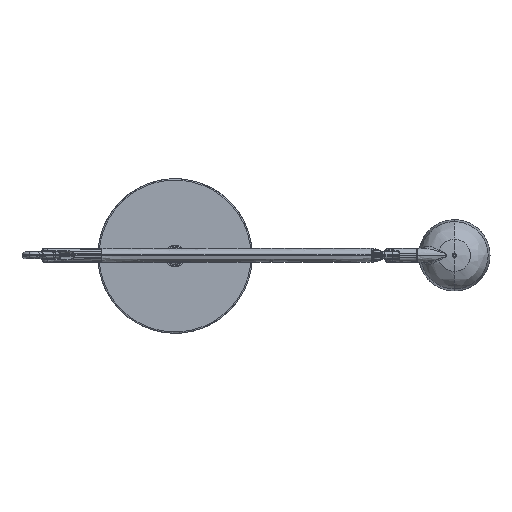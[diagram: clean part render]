
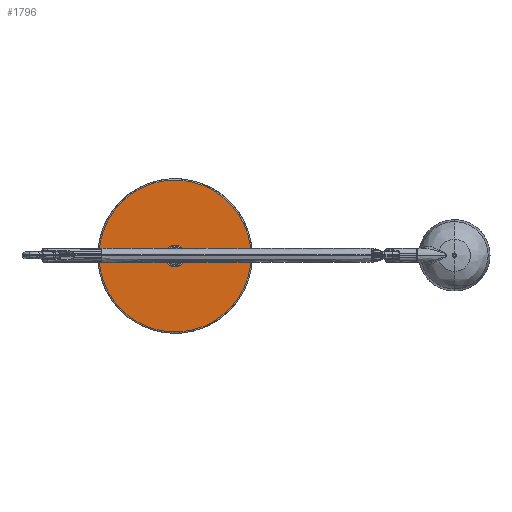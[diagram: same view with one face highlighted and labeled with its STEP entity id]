
A CAD part, top view. The second image highlights one B-rep face of the part: STEP entity #1796.
In plain terms, the highlighted planar face has unit normal (0, 0, 1).
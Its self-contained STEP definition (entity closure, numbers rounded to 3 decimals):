
#373=FACE_BOUND('',#9407,.T.);
#1796=ADVANCED_FACE('',(#5593,#373),#52932,.T.);
#5593=FACE_OUTER_BOUND('',#9406,.T.);
#9406=EDGE_LOOP('',(#16421,#16422));
#9407=EDGE_LOOP('',(#16423,#16424));
#16421=ORIENTED_EDGE('',*,*,#31812,.F.);
#16422=ORIENTED_EDGE('',*,*,#31832,.T.);
#16423=ORIENTED_EDGE('',*,*,#31819,.T.);
#16424=ORIENTED_EDGE('',*,*,#31830,.T.);
#31812=EDGE_CURVE('',#48448,#48449,#39245,.T.);
#31819=EDGE_CURVE('',#48457,#48456,#39249,.T.);
#31830=EDGE_CURVE('',#48456,#48457,#39255,.T.);
#31832=EDGE_CURVE('',#48448,#48449,#39257,.T.);
#39245=(
BOUNDED_CURVE()
B_SPLINE_CURVE(2,(#92901,#92902,#92903,#92904,#92905),.UNSPECIFIED.,.F.,
 .F.)
B_SPLINE_CURVE_WITH_KNOTS((3,2,3),(0.,137.445,274.889),
 .UNSPECIFIED.)
CURVE()
GEOMETRIC_REPRESENTATION_ITEM()
RATIONAL_B_SPLINE_CURVE((1.,0.707,1.,0.707,1.))
REPRESENTATION_ITEM('')
);
#39249=(
BOUNDED_CURVE()
B_SPLINE_CURVE(2,(#92927,#92928,#92929,#92930,#92931),.UNSPECIFIED.,.F.,
 .F.)
B_SPLINE_CURVE_WITH_KNOTS((3,2,3),(-39.27,-19.635,
0.),.UNSPECIFIED.)
CURVE()
GEOMETRIC_REPRESENTATION_ITEM()
RATIONAL_B_SPLINE_CURVE((1.,0.707,1.,0.707,1.))
REPRESENTATION_ITEM('')
);
#39255=(
BOUNDED_CURVE()
B_SPLINE_CURVE(2,(#92967,#92968,#92969,#92970,#92971),.UNSPECIFIED.,.F.,
 .F.)
B_SPLINE_CURVE_WITH_KNOTS((3,2,3),(-39.27,-19.635,
0.),.UNSPECIFIED.)
CURVE()
GEOMETRIC_REPRESENTATION_ITEM()
RATIONAL_B_SPLINE_CURVE((1.,0.707,1.,0.707,1.))
REPRESENTATION_ITEM('')
);
#39257=(
BOUNDED_CURVE()
B_SPLINE_CURVE(2,(#92977,#92978,#92979,#92980,#92981),.UNSPECIFIED.,.F.,
 .F.)
B_SPLINE_CURVE_WITH_KNOTS((3,2,3),(-274.889,-137.445,
0.),.UNSPECIFIED.)
CURVE()
GEOMETRIC_REPRESENTATION_ITEM()
RATIONAL_B_SPLINE_CURVE((1.,0.707,1.,0.707,1.))
REPRESENTATION_ITEM('')
);
#48448=VERTEX_POINT('',#92856);
#48449=VERTEX_POINT('',#92857);
#48456=VERTEX_POINT('',#92864);
#48457=VERTEX_POINT('',#92865);
#52932=PLANE('',#56504);
#56504=AXIS2_PLACEMENT_3D('',#92727,#57356,$);
#57356=DIRECTION('',(0.,0.,1.));
#92727=CARTESIAN_POINT('',(-105.,159.129,-248.63));
#92856=CARTESIAN_POINT('',(-87.5,264.13,-248.63));
#92857=CARTESIAN_POINT('',(87.5,264.13,-248.63));
#92864=CARTESIAN_POINT('',(-12.5,264.13,-248.63));
#92865=CARTESIAN_POINT('',(12.5,264.13,-248.63));
#92901=CARTESIAN_POINT('',(-87.5,264.13,-248.63));
#92902=CARTESIAN_POINT('',(-87.5,351.63,-248.63));
#92903=CARTESIAN_POINT('',(0.,351.63,-248.63));
#92904=CARTESIAN_POINT('',(87.5,351.63,-248.63));
#92905=CARTESIAN_POINT('',(87.5,264.13,-248.63));
#92927=CARTESIAN_POINT('',(12.5,264.13,-248.63));
#92928=CARTESIAN_POINT('',(12.5,251.63,-248.63));
#92929=CARTESIAN_POINT('',(0.,251.63,-248.63));
#92930=CARTESIAN_POINT('',(-12.5,251.63,-248.63));
#92931=CARTESIAN_POINT('',(-12.5,264.13,-248.63));
#92967=CARTESIAN_POINT('',(-12.5,264.13,-248.63));
#92968=CARTESIAN_POINT('',(-12.5,276.63,-248.63));
#92969=CARTESIAN_POINT('',(0.,276.63,-248.63));
#92970=CARTESIAN_POINT('',(12.5,276.63,-248.63));
#92971=CARTESIAN_POINT('',(12.5,264.13,-248.63));
#92977=CARTESIAN_POINT('',(-87.5,264.13,-248.63));
#92978=CARTESIAN_POINT('',(-87.5,176.63,-248.63));
#92979=CARTESIAN_POINT('',(0.,176.63,-248.63));
#92980=CARTESIAN_POINT('',(87.5,176.63,-248.63));
#92981=CARTESIAN_POINT('',(87.5,264.13,-248.63));
